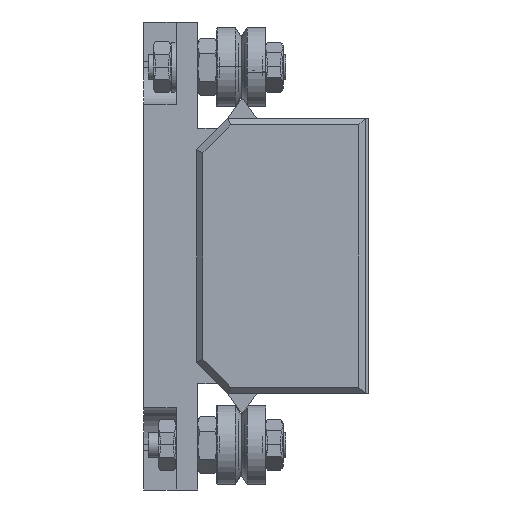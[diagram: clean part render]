
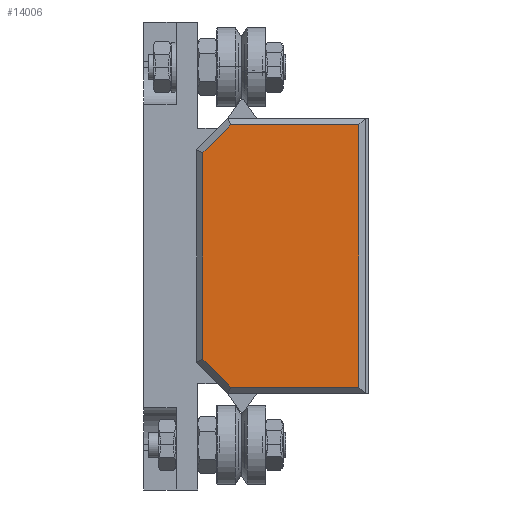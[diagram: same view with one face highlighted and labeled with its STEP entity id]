
A CAD part, left-side view. The second image highlights one B-rep face of the part: STEP entity #14006.
In plain terms, the highlighted planar face has unit normal (-1, 0, 0) as drawn and (0, 0, 1) by its records, which use the part's own axes.
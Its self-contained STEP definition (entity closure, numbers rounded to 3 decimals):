
#181 = VERTEX_POINT ( 'NONE', #9415 ) ;
#527 = DIRECTION ( 'NONE',  ( 1., 0., 0. ) ) ;
#748 = CARTESIAN_POINT ( 'NONE',  ( 16.586, 26., 6. ) ) ;
#1203 = DIRECTION ( 'NONE',  ( -1., 0., 0. ) ) ;
#1232 = VECTOR ( 'NONE', #2322, 1000. ) ;
#1321 = LINE ( 'NONE', #13696, #1232 ) ;
#2322 = DIRECTION ( 'NONE',  ( -1., 0., 0. ) ) ;
#2493 = LINE ( 'NONE', #13597, #3331 ) ;
#2771 = VECTOR ( 'NONE', #527, 1000. ) ;
#2857 = DIRECTION ( 'NONE',  ( 0., 0., -1. ) ) ;
#3331 = VECTOR ( 'NONE', #6675, 1000. ) ;
#3390 = VERTEX_POINT ( 'NONE', #748 ) ;
#3749 = EDGE_CURVE ( 'NONE', #181, #16550, #6347, .T. ) ;
#3938 = PLANE ( 'NONE',  #14447 ) ;
#4008 = ORIENTED_EDGE ( 'NONE', *, *, #3749, .T. ) ;
#4069 = CARTESIAN_POINT ( 'NONE',  ( 21., 1., 6. ) ) ;
#4277 = DIRECTION ( 'NONE',  ( 0., -1., 0. ) ) ;
#4765 = VERTEX_POINT ( 'NONE', #16042 ) ;
#6297 = VECTOR ( 'NONE', #13953, 1000. ) ;
#6347 = LINE ( 'NONE', #17471, #2771 ) ;
#6675 = DIRECTION ( 'NONE',  ( -0.707, 0.707, 0. ) ) ;
#6754 = FACE_OUTER_BOUND ( 'NONE', #16444, .T. ) ;
#6858 = CARTESIAN_POINT ( 'NONE',  ( -21.293, 21.293, 6. ) ) ;
#6923 = LINE ( 'NONE', #16766, #12763 ) ;
#7027 = LINE ( 'NONE', #6858, #6297 ) ;
#7207 = EDGE_CURVE ( 'NONE', #9451, #3390, #2493, .T. ) ;
#7281 = CARTESIAN_POINT ( 'NONE',  ( 21., 0., 6. ) ) ;
#8535 = VECTOR ( 'NONE', #15931, 1000. ) ;
#9415 = CARTESIAN_POINT ( 'NONE',  ( -21., 1., 6. ) ) ;
#9451 = VERTEX_POINT ( 'NONE', #17179 ) ;
#9851 = CARTESIAN_POINT ( 'NONE',  ( 0., 0., 6. ) ) ;
#10075 = EDGE_CURVE ( 'NONE', #3390, #13077, #1321, .T. ) ;
#10747 = EDGE_CURVE ( 'NONE', #16550, #9451, #11637, .T. ) ;
#11637 = LINE ( 'NONE', #7281, #8535 ) ;
#11913 = CARTESIAN_POINT ( 'NONE',  ( -16.586, 26., 6. ) ) ;
#12545 = ORIENTED_EDGE ( 'NONE', *, *, #10075, .T. ) ;
#12763 = VECTOR ( 'NONE', #4277, 1000. ) ;
#13077 = VERTEX_POINT ( 'NONE', #11913 ) ;
#13175 = ORIENTED_EDGE ( 'NONE', *, *, #10747, .T. ) ;
#13597 = CARTESIAN_POINT ( 'NONE',  ( 16.293, 26.293, 6. ) ) ;
#13696 = CARTESIAN_POINT ( 'NONE',  ( 0., 26., 6. ) ) ;
#13953 = DIRECTION ( 'NONE',  ( -0.707, -0.707, 0. ) ) ;
#14006 = ADVANCED_FACE ( 'NONE', ( #6754 ), #3938, .F. ) ;
#14087 = EDGE_CURVE ( 'NONE', #13077, #4765, #7027, .T. ) ;
#14447 = AXIS2_PLACEMENT_3D ( 'NONE', #9851, #2857, #1203 ) ;
#14774 = ORIENTED_EDGE ( 'NONE', *, *, #7207, .T. ) ;
#15143 = ORIENTED_EDGE ( 'NONE', *, *, #14087, .T. ) ;
#15931 = DIRECTION ( 'NONE',  ( 0., 1., 0. ) ) ;
#16042 = CARTESIAN_POINT ( 'NONE',  ( -21., 21.586, 6. ) ) ;
#16444 = EDGE_LOOP ( 'NONE', ( #17050, #4008, #13175, #14774, #12545, #15143 ) ) ;
#16550 = VERTEX_POINT ( 'NONE', #4069 ) ;
#16766 = CARTESIAN_POINT ( 'NONE',  ( -21., 0., 6. ) ) ;
#17050 = ORIENTED_EDGE ( 'NONE', *, *, #17417, .T. ) ;
#17179 = CARTESIAN_POINT ( 'NONE',  ( 21., 21.586, 6. ) ) ;
#17417 = EDGE_CURVE ( 'NONE', #4765, #181, #6923, .T. ) ;
#17471 = CARTESIAN_POINT ( 'NONE',  ( 0., 1., 6. ) ) ;
